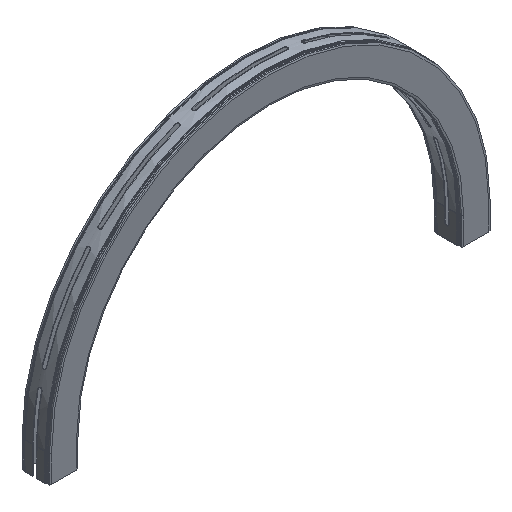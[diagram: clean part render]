
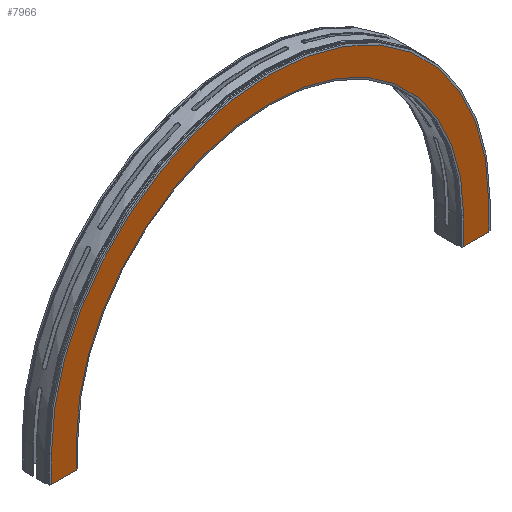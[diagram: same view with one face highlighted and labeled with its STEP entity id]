
A CAD part, isometric view. The second image highlights one B-rep face of the part: STEP entity #7966.
In plain terms, the highlighted planar face has unit normal (0, -1, 0).
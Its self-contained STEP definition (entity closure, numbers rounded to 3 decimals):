
#7597=CARTESIAN_POINT('',(36.5,-11.,0.0));
#7598=VERTEX_POINT('',#7597);
#7605=CARTESIAN_POINT('',(-36.5,-11.,0.0));
#7606=VERTEX_POINT('',#7605);
#7607=CARTESIAN_POINT('',(-36.5,-11.,0.0));
#7608=DIRECTION('',(1.0,0.0,0.0));
#7609=VECTOR('',#7608,73.);
#7610=LINE('',#7607,#7609);
#7611=EDGE_CURVE('',#7606,#7598,#7610,.T.);
#7677=CARTESIAN_POINT('',(-36.5,-11.,80.0));
#7678=VERTEX_POINT('',#7677);
#7692=CARTESIAN_POINT('',(-36.5,-11.,0.0));
#7693=DIRECTION('',(0.0,0.0,1.0));
#7694=VECTOR('',#7693,80.0);
#7695=LINE('',#7692,#7694);
#7696=EDGE_CURVE('',#7606,#7678,#7695,.T.);
#7706=CARTESIAN_POINT('',(36.5,-11.,80.0));
#7707=VERTEX_POINT('',#7706);
#7716=CARTESIAN_POINT('',(36.5,-11.,0.0));
#7717=DIRECTION('',(0.0,0.0,1.0));
#7718=VECTOR('',#7717,80.0);
#7719=LINE('',#7716,#7718);
#7720=EDGE_CURVE('',#7598,#7707,#7719,.T.);
#7793=CARTESIAN_POINT('',(-1236.5,-11.,80.));
#7794=VERTEX_POINT('',#7793);
#7803=CARTESIAN_POINT('',(-600.0,-11.,80.0));
#7804=DIRECTION('',(0.0,-1.0,0.0));
#7805=DIRECTION('',(1.0,0.0,0.0));
#7806=AXIS2_PLACEMENT_3D('',#7803,#7804,#7805);
#7807=CIRCLE('',#7806,636.5);
#7808=EDGE_CURVE('',#7707,#7794,#7807,.T.);
#7860=CARTESIAN_POINT('',(-1163.5,-11.,80.));
#7861=VERTEX_POINT('',#7860);
#7876=CARTESIAN_POINT('',(-600.0,-11.,80.0));
#7877=DIRECTION('',(0.0,-1.0,0.0));
#7878=DIRECTION('',(1.0,0.0,0.0));
#7879=AXIS2_PLACEMENT_3D('',#7876,#7877,#7878);
#7880=CIRCLE('',#7879,563.5);
#7881=EDGE_CURVE('',#7678,#7861,#7880,.T.);
#7920=CARTESIAN_POINT('',(-1163.5,-11.,0.));
#7921=VERTEX_POINT('',#7920);
#7930=CARTESIAN_POINT('',(-1163.5,-11.,80.));
#7931=DIRECTION('',(0.0,0.0,-1.0));
#7932=VECTOR('',#7931,80.0);
#7933=LINE('',#7930,#7932);
#7934=EDGE_CURVE('',#7861,#7921,#7933,.T.);
#7939=CARTESIAN_POINT('',(-1236.5,-11.,2044.956));
#7940=DIRECTION('',(0.0,-1.0,0.0));
#7941=DIRECTION('',(0.0,0.0,1.0));
#7942=AXIS2_PLACEMENT_3D('',#7939,#7940,#7941);
#7943=PLANE('',#7942);
#7944=CARTESIAN_POINT('',(-1236.5,-11.,0.));
#7945=VERTEX_POINT('',#7944);
#7946=CARTESIAN_POINT('',(-1236.5,-11.,0.));
#7947=DIRECTION('',(1.0,0.0,0.0));
#7948=VECTOR('',#7947,73.);
#7949=LINE('',#7946,#7948);
#7950=EDGE_CURVE('',#7945,#7921,#7949,.T.);
#7951=ORIENTED_EDGE('',*,*,#7950,.T.);
#7952=ORIENTED_EDGE('',*,*,#7934,.F.);
#7953=ORIENTED_EDGE('',*,*,#7881,.F.);
#7954=ORIENTED_EDGE('',*,*,#7696,.F.);
#7955=ORIENTED_EDGE('',*,*,#7611,.T.);
#7956=ORIENTED_EDGE('',*,*,#7720,.T.);
#7957=ORIENTED_EDGE('',*,*,#7808,.T.);
#7958=CARTESIAN_POINT('',(-1236.5,-11.,80.));
#7959=DIRECTION('',(0.0,0.0,-1.0));
#7960=VECTOR('',#7959,80.0);
#7961=LINE('',#7958,#7960);
#7962=EDGE_CURVE('',#7794,#7945,#7961,.T.);
#7963=ORIENTED_EDGE('',*,*,#7962,.T.);
#7964=EDGE_LOOP('',(#7951,#7952,#7953,#7954,#7955,#7956,#7957,#7963));
#7965=FACE_OUTER_BOUND('',#7964,.T.);
#7966=ADVANCED_FACE('',(#7965),#7943,.T.);
